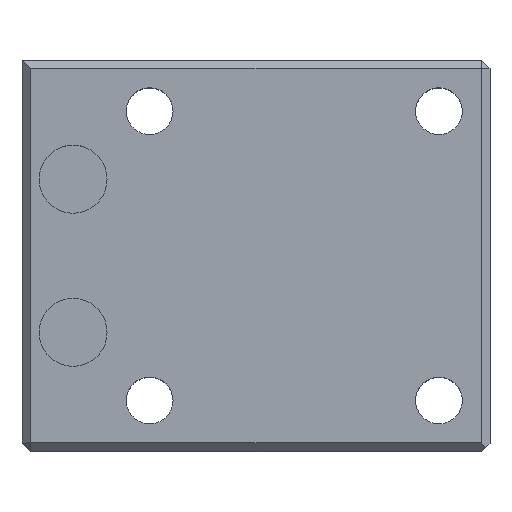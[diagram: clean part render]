
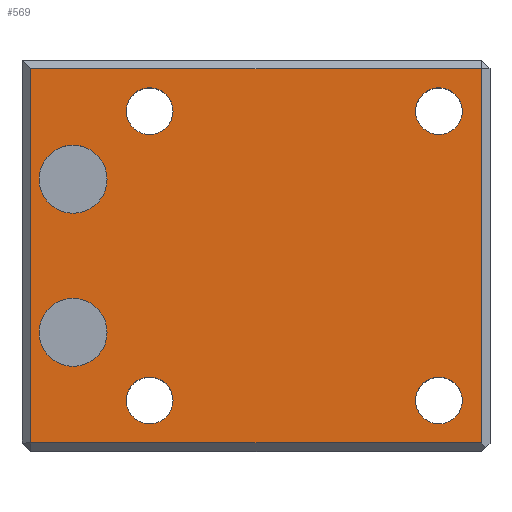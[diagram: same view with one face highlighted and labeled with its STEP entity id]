
A CAD part, top view. The second image highlights one B-rep face of the part: STEP entity #569.
In plain terms, the highlighted planar face has unit normal (0, 0, 1).
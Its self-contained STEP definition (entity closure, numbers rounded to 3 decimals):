
#4 = ORIENTED_EDGE ( 'NONE', *, *, #1894, .F. ) ;
#16 = EDGE_CURVE ( 'NONE', #250, #156, #1081, .T. ) ;
#33 = PLANE ( 'NONE',  #1728 ) ;
#35 = ORIENTED_EDGE ( 'NONE', *, *, #1108, .T. ) ;
#68 = EDGE_LOOP ( 'NONE', ( #343, #1553 ) ) ;
#79 = CIRCLE ( 'NONE', #1754, 2.75 ) ;
#93 = CARTESIAN_POINT ( 'NONE',  ( -17., -17., 78. ) ) ;
#97 = CARTESIAN_POINT ( 'NONE',  ( 17., -17., 78. ) ) ;
#103 = EDGE_CURVE ( 'NONE', #1116, #1783, #1291, .T. ) ;
#108 = CIRCLE ( 'NONE', #495, 4. ) ;
#123 = CARTESIAN_POINT ( 'NONE',  ( -14.25, -17., 78. ) ) ;
#145 = AXIS2_PLACEMENT_3D ( 'NONE', #97, #1170, #394 ) ;
#153 = CARTESIAN_POINT ( 'NONE',  ( -26., -9., 78. ) ) ;
#156 = VERTEX_POINT ( 'NONE', #1811 ) ;
#177 = DIRECTION ( 'NONE',  ( 1., 0., 0. ) ) ;
#178 = CIRCLE ( 'NONE', #732, 2.75 ) ;
#192 = VERTEX_POINT ( 'NONE', #1669 ) ;
#215 = EDGE_CURVE ( 'NONE', #1186, #1716, #2020, .T. ) ;
#219 = DIRECTION ( 'NONE',  ( 0., 0., 1. ) ) ;
#231 = AXIS2_PLACEMENT_3D ( 'NONE', #1344, #219, #1971 ) ;
#237 = VECTOR ( 'NONE', #1538, 1000. ) ;
#244 = CARTESIAN_POINT ( 'NONE',  ( 19.75, 17., 78. ) ) ;
#250 = VERTEX_POINT ( 'NONE', #844 ) ;
#313 = DIRECTION ( 'NONE',  ( 0., 0., 1. ) ) ;
#335 = DIRECTION ( 'NONE',  ( 0., 0., 1. ) ) ;
#343 = ORIENTED_EDGE ( 'NONE', *, *, #1735, .F. ) ;
#351 = FACE_OUTER_BOUND ( 'NONE', #1717, .T. ) ;
#367 = AXIS2_PLACEMENT_3D ( 'NONE', #977, #771, #997 ) ;
#369 = CARTESIAN_POINT ( 'NONE',  ( -17., 17., 78. ) ) ;
#394 = DIRECTION ( 'NONE',  ( 1., 0., 0. ) ) ;
#486 = ORIENTED_EDGE ( 'NONE', *, *, #1112, .F. ) ;
#495 = AXIS2_PLACEMENT_3D ( 'NONE', #501, #1767, #1284 ) ;
#501 = CARTESIAN_POINT ( 'NONE',  ( -26., 9., 78. ) ) ;
#503 = AXIS2_PLACEMENT_3D ( 'NONE', #1342, #1969, #544 ) ;
#515 = EDGE_CURVE ( 'NONE', #1835, #1353, #892, .T. ) ;
#544 = DIRECTION ( 'NONE',  ( 1., 0., 0. ) ) ;
#566 = EDGE_CURVE ( 'NONE', #582, #1576, #108, .T. ) ;
#569 = ADVANCED_FACE ( 'NONE', ( #351, #1105, #1729, #979, #1740, #1460, #1606 ), #33, .T. ) ;
#570 = LINE ( 'NONE', #1703, #237 ) ;
#580 = EDGE_CURVE ( 'NONE', #1576, #582, #1753, .T. ) ;
#582 = VERTEX_POINT ( 'NONE', #1620 ) ;
#601 = ORIENTED_EDGE ( 'NONE', *, *, #638, .T. ) ;
#605 = DIRECTION ( 'NONE',  ( 0., 0., 1. ) ) ;
#612 = DIRECTION ( 'NONE',  ( 0., -1., 0. ) ) ;
#630 = EDGE_LOOP ( 'NONE', ( #1773, #1415 ) ) ;
#635 = DIRECTION ( 'NONE',  ( 1., 0., 0. ) ) ;
#638 = EDGE_CURVE ( 'NONE', #1006, #250, #1800, .T. ) ;
#642 = CARTESIAN_POINT ( 'NONE',  ( -26., -9., 78. ) ) ;
#653 = CARTESIAN_POINT ( 'NONE',  ( 0., 0., 78. ) ) ;
#659 = AXIS2_PLACEMENT_3D ( 'NONE', #933, #1110, #1242 ) ;
#660 = CARTESIAN_POINT ( 'NONE',  ( 22., 22., 78. ) ) ;
#673 = CARTESIAN_POINT ( 'NONE',  ( -22., -9., 78. ) ) ;
#697 = DIRECTION ( 'NONE',  ( -1., 0., 0. ) ) ;
#720 = CARTESIAN_POINT ( 'NONE',  ( 14.25, -17., 78. ) ) ;
#727 = AXIS2_PLACEMENT_3D ( 'NONE', #642, #1421, #177 ) ;
#732 = AXIS2_PLACEMENT_3D ( 'NONE', #1114, #335, #978 ) ;
#740 = EDGE_CURVE ( 'NONE', #1464, #192, #79, .T. ) ;
#771 = DIRECTION ( 'NONE',  ( 0., 0., 1. ) ) ;
#809 = LINE ( 'NONE', #1286, #1436 ) ;
#842 = CARTESIAN_POINT ( 'NONE',  ( -19.75, -17., 78. ) ) ;
#844 = CARTESIAN_POINT ( 'NONE',  ( -31., 22., 78. ) ) ;
#867 = CIRCLE ( 'NONE', #503, 2.75 ) ;
#892 = CIRCLE ( 'NONE', #727, 4. ) ;
#929 = ORIENTED_EDGE ( 'NONE', *, *, #1684, .F. ) ;
#931 = ORIENTED_EDGE ( 'NONE', *, *, #515, .F. ) ;
#932 = CIRCLE ( 'NONE', #145, 2.75 ) ;
#933 = CARTESIAN_POINT ( 'NONE',  ( -17., -17., 78. ) ) ;
#977 = CARTESIAN_POINT ( 'NONE',  ( -26., 9., 78. ) ) ;
#978 = DIRECTION ( 'NONE',  ( 1., 0., 0. ) ) ;
#979 = FACE_BOUND ( 'NONE', #1131, .T. ) ;
#997 = DIRECTION ( 'NONE',  ( 1., 0., 0. ) ) ;
#1002 = ORIENTED_EDGE ( 'NONE', *, *, #1306, .F. ) ;
#1006 = VERTEX_POINT ( 'NONE', #660 ) ;
#1033 = AXIS2_PLACEMENT_3D ( 'NONE', #1379, #2008, #1837 ) ;
#1078 = ORIENTED_EDGE ( 'NONE', *, *, #215, .F. ) ;
#1081 = LINE ( 'NONE', #2047, #1847 ) ;
#1105 = FACE_BOUND ( 'NONE', #1255, .T. ) ;
#1108 = EDGE_CURVE ( 'NONE', #1271, #1006, #570, .T. ) ;
#1110 = DIRECTION ( 'NONE',  ( 0., 0., 1. ) ) ;
#1112 = EDGE_CURVE ( 'NONE', #1716, #1186, #1888, .T. ) ;
#1114 = CARTESIAN_POINT ( 'NONE',  ( 17., -17., 78. ) ) ;
#1116 = VERTEX_POINT ( 'NONE', #123 ) ;
#1131 = EDGE_LOOP ( 'NONE', ( #1078, #486 ) ) ;
#1170 = DIRECTION ( 'NONE',  ( 0., 0., 1. ) ) ;
#1180 = CARTESIAN_POINT ( 'NONE',  ( -32., 22., 78. ) ) ;
#1186 = VERTEX_POINT ( 'NONE', #244 ) ;
#1187 = CARTESIAN_POINT ( 'NONE',  ( -30., 9., 78. ) ) ;
#1194 = DIRECTION ( 'NONE',  ( 1., 0., 0. ) ) ;
#1197 = VECTOR ( 'NONE', #697, 1000. ) ;
#1220 = DIRECTION ( 'NONE',  ( 0., 0., 1. ) ) ;
#1242 = DIRECTION ( 'NONE',  ( 1., 0., 0. ) ) ;
#1255 = EDGE_LOOP ( 'NONE', ( #1734, #1002 ) ) ;
#1271 = VERTEX_POINT ( 'NONE', #1417 ) ;
#1284 = DIRECTION ( 'NONE',  ( 1., 0., 0. ) ) ;
#1286 = CARTESIAN_POINT ( 'NONE',  ( 23., -22., 78. ) ) ;
#1288 = EDGE_LOOP ( 'NONE', ( #931, #929 ) ) ;
#1291 = CIRCLE ( 'NONE', #1816, 2.75 ) ;
#1295 = CARTESIAN_POINT ( 'NONE',  ( 14.25, 17., 78. ) ) ;
#1297 = DIRECTION ( 'NONE',  ( 1., 0., 0. ) ) ;
#1302 = CARTESIAN_POINT ( 'NONE',  ( 19.75, -17., 78. ) ) ;
#1306 = EDGE_CURVE ( 'NONE', #1783, #1116, #1500, .T. ) ;
#1313 = CARTESIAN_POINT ( 'NONE',  ( -14.25, 17., 78. ) ) ;
#1342 = CARTESIAN_POINT ( 'NONE',  ( -17., 17., 78. ) ) ;
#1344 = CARTESIAN_POINT ( 'NONE',  ( 17., 17., 78. ) ) ;
#1353 = VERTEX_POINT ( 'NONE', #1867 ) ;
#1379 = CARTESIAN_POINT ( 'NONE',  ( 17., 17., 78. ) ) ;
#1403 = CIRCLE ( 'NONE', #1727, 4. ) ;
#1415 = ORIENTED_EDGE ( 'NONE', *, *, #580, .F. ) ;
#1417 = CARTESIAN_POINT ( 'NONE',  ( 22., -22., 78. ) ) ;
#1421 = DIRECTION ( 'NONE',  ( 0., 0., 1. ) ) ;
#1425 = VERTEX_POINT ( 'NONE', #1302 ) ;
#1436 = VECTOR ( 'NONE', #635, 1000. ) ;
#1441 = DIRECTION ( 'NONE',  ( 1., 0., 0. ) ) ;
#1458 = DIRECTION ( 'NONE',  ( 0., 0., 1. ) ) ;
#1460 = FACE_BOUND ( 'NONE', #630, .T. ) ;
#1463 = ORIENTED_EDGE ( 'NONE', *, *, #16, .T. ) ;
#1464 = VERTEX_POINT ( 'NONE', #1313 ) ;
#1500 = CIRCLE ( 'NONE', #659, 2.75 ) ;
#1511 = ORIENTED_EDGE ( 'NONE', *, *, #2001, .T. ) ;
#1538 = DIRECTION ( 'NONE',  ( 0., 1., 0. ) ) ;
#1545 = EDGE_LOOP ( 'NONE', ( #1902, #4 ) ) ;
#1553 = ORIENTED_EDGE ( 'NONE', *, *, #1879, .F. ) ;
#1576 = VERTEX_POINT ( 'NONE', #1187 ) ;
#1606 = FACE_BOUND ( 'NONE', #1288, .T. ) ;
#1620 = CARTESIAN_POINT ( 'NONE',  ( -22., 9., 78. ) ) ;
#1669 = CARTESIAN_POINT ( 'NONE',  ( -19.75, 17., 78. ) ) ;
#1684 = EDGE_CURVE ( 'NONE', #1353, #1835, #1403, .T. ) ;
#1703 = CARTESIAN_POINT ( 'NONE',  ( 22., 23., 78. ) ) ;
#1716 = VERTEX_POINT ( 'NONE', #1295 ) ;
#1717 = EDGE_LOOP ( 'NONE', ( #35, #601, #1463, #1511 ) ) ;
#1727 = AXIS2_PLACEMENT_3D ( 'NONE', #153, #1458, #1441 ) ;
#1728 = AXIS2_PLACEMENT_3D ( 'NONE', #653, #313, #1297 ) ;
#1729 = FACE_BOUND ( 'NONE', #68, .T. ) ;
#1734 = ORIENTED_EDGE ( 'NONE', *, *, #103, .F. ) ;
#1735 = EDGE_CURVE ( 'NONE', #1425, #1895, #178, .T. ) ;
#1740 = FACE_BOUND ( 'NONE', #1545, .T. ) ;
#1753 = CIRCLE ( 'NONE', #367, 4. ) ;
#1754 = AXIS2_PLACEMENT_3D ( 'NONE', #369, #1220, #1845 ) ;
#1767 = DIRECTION ( 'NONE',  ( 0., 0., 1. ) ) ;
#1773 = ORIENTED_EDGE ( 'NONE', *, *, #566, .F. ) ;
#1783 = VERTEX_POINT ( 'NONE', #842 ) ;
#1800 = LINE ( 'NONE', #1180, #1197 ) ;
#1811 = CARTESIAN_POINT ( 'NONE',  ( -31., -22., 78. ) ) ;
#1816 = AXIS2_PLACEMENT_3D ( 'NONE', #93, #605, #1194 ) ;
#1835 = VERTEX_POINT ( 'NONE', #673 ) ;
#1837 = DIRECTION ( 'NONE',  ( 1., 0., 0. ) ) ;
#1845 = DIRECTION ( 'NONE',  ( 1., 0., 0. ) ) ;
#1847 = VECTOR ( 'NONE', #612, 1000. ) ;
#1867 = CARTESIAN_POINT ( 'NONE',  ( -30., -9., 78. ) ) ;
#1879 = EDGE_CURVE ( 'NONE', #1895, #1425, #932, .T. ) ;
#1888 = CIRCLE ( 'NONE', #1033, 2.75 ) ;
#1894 = EDGE_CURVE ( 'NONE', #192, #1464, #867, .T. ) ;
#1895 = VERTEX_POINT ( 'NONE', #720 ) ;
#1902 = ORIENTED_EDGE ( 'NONE', *, *, #740, .F. ) ;
#1969 = DIRECTION ( 'NONE',  ( 0., 0., 1. ) ) ;
#1971 = DIRECTION ( 'NONE',  ( 1., 0., 0. ) ) ;
#2001 = EDGE_CURVE ( 'NONE', #156, #1271, #809, .T. ) ;
#2008 = DIRECTION ( 'NONE',  ( 0., 0., 1. ) ) ;
#2020 = CIRCLE ( 'NONE', #231, 2.75 ) ;
#2047 = CARTESIAN_POINT ( 'NONE',  ( -31., -23., 78. ) ) ;
